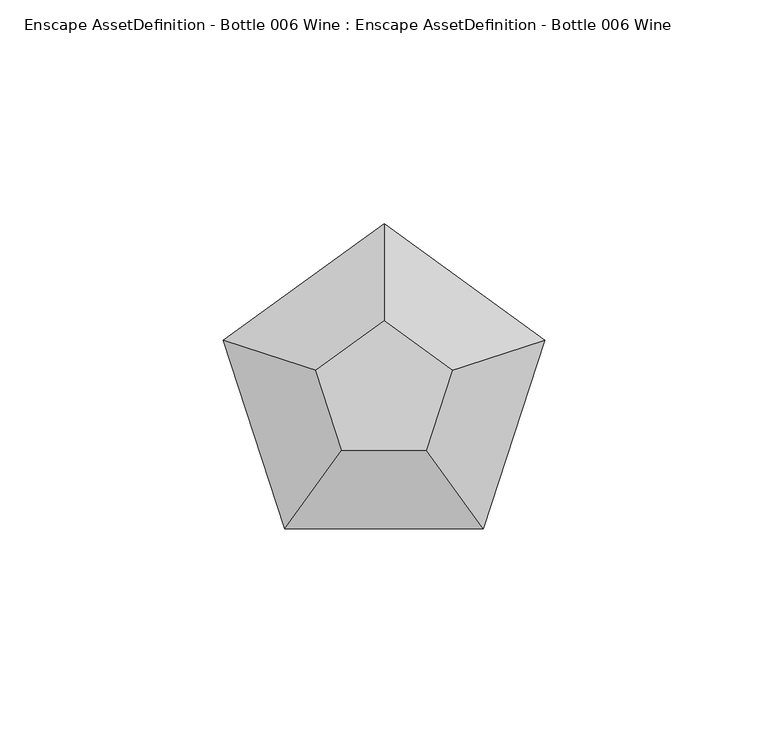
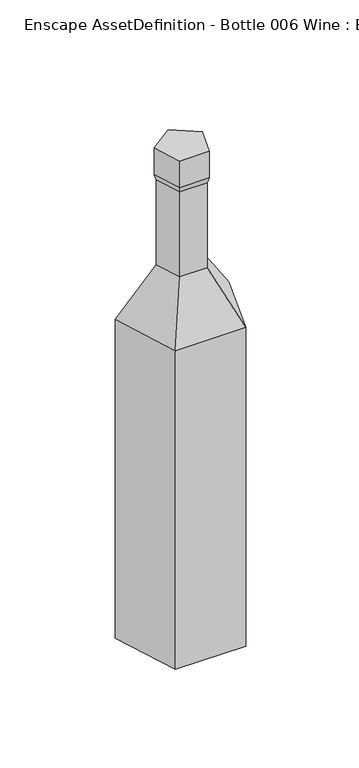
"""IFC4 building model written with IfcOpenShell, lengths in millimetres: geographic element geometry, Enscape AssetDefinition - Bottle 006 Wine : Enscape AssetDefinition - Bottle 006 Wine."""

from ifc_helpers import new_model, si_unit, origin, place, context, project, spatial, triangles, source, transform, mapped, element, save


def enscape_assetdefinition_bottle_006_wine_enscape_f008a982(model_context):
    return source(origin(), model_context, "Body", "Tessellation", [
        triangles([(35.9170073, 11.6701441, 213.1558119), (22.1979342, -30.5528317, 213.1558119), (22.1979342, -30.5528317, 0.0), (-22.1979251, -30.5528317, 0.0), (35.9170073, 11.6701441, 0.0), (0.0, 37.7653729, 0.0), (-35.9170073, 11.6701441, 213.1558119), (0.0, 37.7653729, 213.1558119), (-13.94756, 4.5318344, 246.357964), (-35.9170073, 11.6701441, 0.0), (0.0, 0.0, 0.0), (-22.1979251, -30.5528317, 213.1558119), (0.0, 14.6653328, 246.357964), (-8.6200702, -11.8645068, 246.357964), (8.6200702, -11.8645068, 246.357964), (13.94756, 4.5318446, 303.1103321), (13.94756, 4.5318446, 246.357964), (-8.6200702, -11.8645068, 303.1103321), (8.6200702, -11.8645068, 303.1103321), (15.2189509, 4.9449357, 306.7945367), (-15.2189509, 4.9449357, 306.7945367), (0.0, 16.0021573, 306.7945367), (0.0, 14.6653328, 303.1103321), (-9.4058269, -12.9460144, 324.689084), (-15.2189509, 4.9449357, 324.689084), (0.0, 0.0, 324.689084), (0.0, 16.0021573, 324.689084), (15.2189509, 4.9449357, 324.689084), (9.4058269, -12.9460144, 324.689084), (-9.4058269, -12.9460144, 306.7945367), (-13.94756, 4.5318344, 303.1103321), (9.4058269, -12.9460144, 306.7945367)], [[32, 30, 18], [29, 30, 32], [30, 31, 18], [29, 24, 30], [29, 26, 24], [28, 29, 32], [28, 26, 29], [27, 26, 28], [24, 26, 25], [25, 26, 27], [24, 25, 21], [30, 21, 31], [24, 21, 30], [25, 27, 22], [25, 22, 21], [27, 28, 20], [27, 20, 22], [28, 32, 20], [23, 22, 20], [21, 22, 23], [31, 23, 13], [21, 23, 31], [23, 17, 13], [23, 16, 17], [23, 20, 16], [20, 32, 19], [20, 19, 16], [32, 18, 19], [16, 19, 15], [17, 15, 2], [16, 15, 17], [15, 12, 2], [19, 18, 14], [15, 14, 12], [19, 14, 15], [18, 31, 9], [31, 13, 9], [18, 9, 14], [14, 9, 7], [14, 7, 12], [12, 7, 10], [2, 12, 4], [12, 10, 4], [10, 11, 4], [6, 11, 10], [7, 6, 10], [9, 13, 8], [7, 8, 6], [9, 8, 7], [5, 11, 6], [8, 5, 6], [4, 11, 3], [3, 11, 5], [2, 4, 3], [13, 17, 1], [8, 1, 5], [1, 2, 3], [13, 1, 8], [17, 2, 1], [1, 3, 5]]),
    ])


if __name__ == "__main__":
    model = new_model("IFC4")
    model_context = context("Model", 3, world=origin())
    ifc_project = project(units=[si_unit("LENGTHUNIT", "METRE", prefix="MILLI")], contexts=[model_context])
    site = spatial("IfcSite", under=ifc_project)
    building = spatial("IfcBuilding", under=site)
    placement = place(None, origin())
    enscape_assetdefinition_bottle_006_wine_enscape_shape = enscape_assetdefinition_bottle_006_wine_enscape_f008a982(model_context)
    element("IfcGeographicElement", 1, ObjectType="Enscape AssetDefinition - Bottle 006 Wine : Enscape AssetDefinition - Bottle 006 Wine", at=placement, inside=building, context=model_context, shape_type="MappedRepresentation", body=[
        mapped(enscape_assetdefinition_bottle_006_wine_enscape_shape, transform((0.0, 0.0, 0.0), x_axis=(1.0, 0.0, 0.0), y_axis=(0.0, 1.0, 0.0), z_axis=(0.0, 0.0, 1.0))),
    ])
    save(model, "model.ifc")
